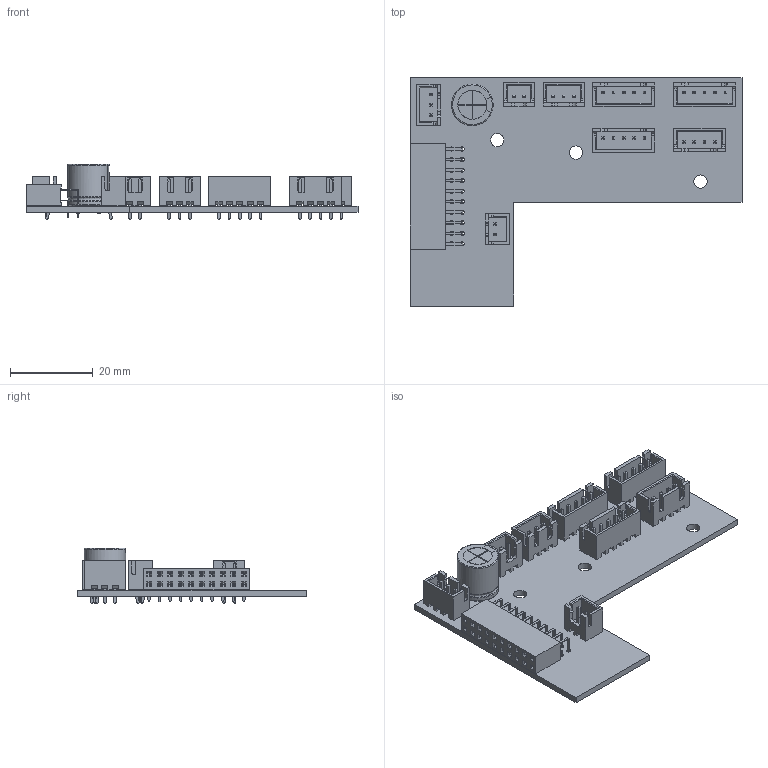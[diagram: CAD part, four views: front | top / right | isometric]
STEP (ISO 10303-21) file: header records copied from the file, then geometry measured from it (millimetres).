
FILE_DESCRIPTION(('KiCad electronic assembly'),'2;1');
FILE_NAME('Stecker.step','2025-10-19T23:12:57',('Pcbnew'),('Kicad'), 'Open CASCADE STEP processor 7.8','KiCad to STEP converter','Unknown' );
FILE_SCHEMA(('AUTOMOTIVE_DESIGN { 1 0 10303 214 1 1 1 1 }'));
Length unit declared in the file: millimetre
Products named in the file (8): Stecker 1; JST_XH_B4B-XH-A_1x04_P2.50mm_Vertical; JST_XH_B5B-XH-A_1x05_P2.50mm_Vertical; JST_XH_B2B-XH-A_1x02_P2.50mm_Vertical; PinSocket_2x10_P2.54mm_Horizontal; JST_XH_B3B-XH-A_1x03_P2.50mm_Vertical; CP_Radial_D10.0mm_P5.00mm; Stecker_PCB
Assembly tree (11 placements, depth 2):
  Stecker 1
    JST_XH_B4B-XH-A_1x04_P2.50mm_Vertical
    JST_XH_B5B-XH-A_1x05_P2.50mm_Vertical  x3
    JST_XH_B2B-XH-A_1x02_P2.50mm_Vertical  x2
    PinSocket_2x10_P2.54mm_Horizontal
    JST_XH_B3B-XH-A_1x03_P2.50mm_Vertical  x2
    CP_Radial_D10.0mm_P5.00mm
    Stecker_PCB
Bounding box: 80.03 x 55 x 13.4 mm (x, y, z)
Volume: 8130.5 mm3; surface area: 13336.5 mm2
Topology: 11 solids, 12 shells, 1768 faces, 4661 edges, 3018 vertices
Faces by surface type: plane 1617, cylinder 140, bspline 5, revolution 4, torus 2
Full cylindrical faces by diameter (mm): 0.7 x2, 0.95 x25, 1 x26, 3.2 x3
Entity records: 49256 total; most frequent: CARTESIAN_POINT 7321, ORIENTED_EDGE 6526, DIRECTION 5984, EDGE_CURVE 3263, LINE 2974, VECTOR 2974, VERTEX_POINT 2118, AXIS2_PLACEMENT_3D 1503
